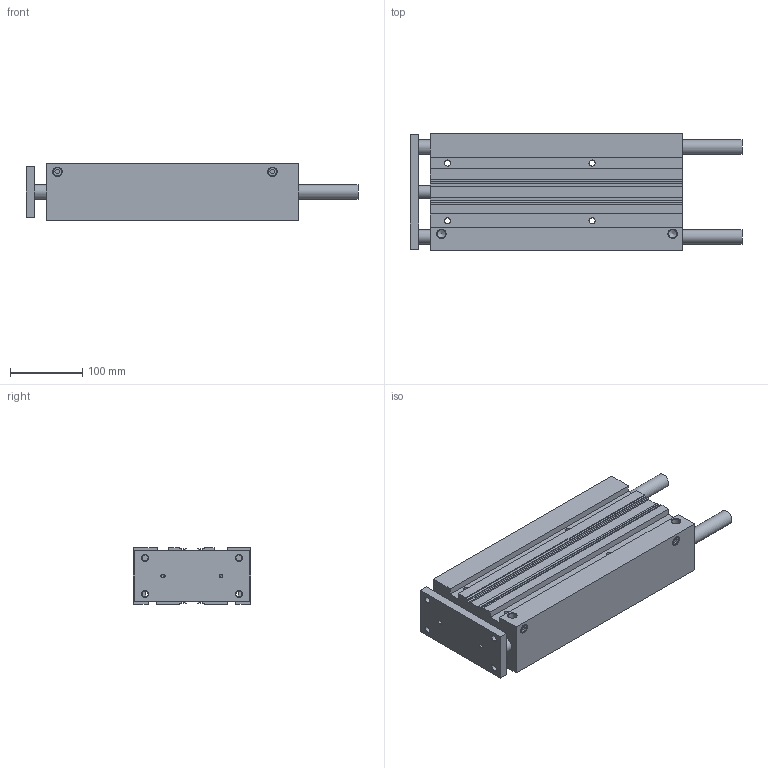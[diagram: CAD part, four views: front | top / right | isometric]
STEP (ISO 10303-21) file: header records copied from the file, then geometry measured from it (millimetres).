
FILE_DESCRIPTION(/* description */ ('STEP AP214'),/* implementation_level */ '2;1');
FILE_NAME(/* name */ 'MGPL63TF-300Z(0_0)',/* time_stamp */ '2025-09-09T08:28:15+02:00',/* author */ ('License CC BY-ND 4.0'),/* organization */ ('CADENAS'),/* preprocessor_version */ 'ST-DEVELOPER v19.3',/* originating_system */ 'PARTsolutions',/* authorisation */ ' ');
FILE_SCHEMA (('AUTOMOTIVE_DESIGN {1 0 10303 214 3 1 1}'));
Length unit declared in the file: millimetre
Products named in the file (4): MGPL63TF-300Z(0_0); MGPL63-300Z(0)_BODY; MGPL63-300Z(0)_ROD; MGP-Z_PLUG_63
Assembly tree (4 placements, depth 2):
  MGPL63TF-300Z(0_0)
    MGPL63-300Z(0)_BODY
    MGPL63-300Z(0)_ROD
    MGP-Z_PLUG_63  x2
Bounding box: 459.5 x 162 x 78 mm (x, y, z)
Volume: 3362969 mm3; surface area: 484768.5 mm2
Topology: 4 solids, 4 shells, 196 faces, 473 edges, 301 vertices
Faces by surface type: plane 108, cylinder 50, cone 38
Full cylindrical faces by diameter (mm): 5 x6, 8.376 x12, 8.6 x4, 10 x4, 11.445 x4, 13.157 x2, 18 x2, 20 x4, 63 x2
Entity records: 5017 total; most frequent: DIRECTION 856, CARTESIAN_POINT 825, ORIENTED_EDGE 710, EDGE_CURVE 355, AXIS2_PLACEMENT_3D 312, FACE_BOUND 308, EDGE_LOOP 294, VERTEX_POINT 281
